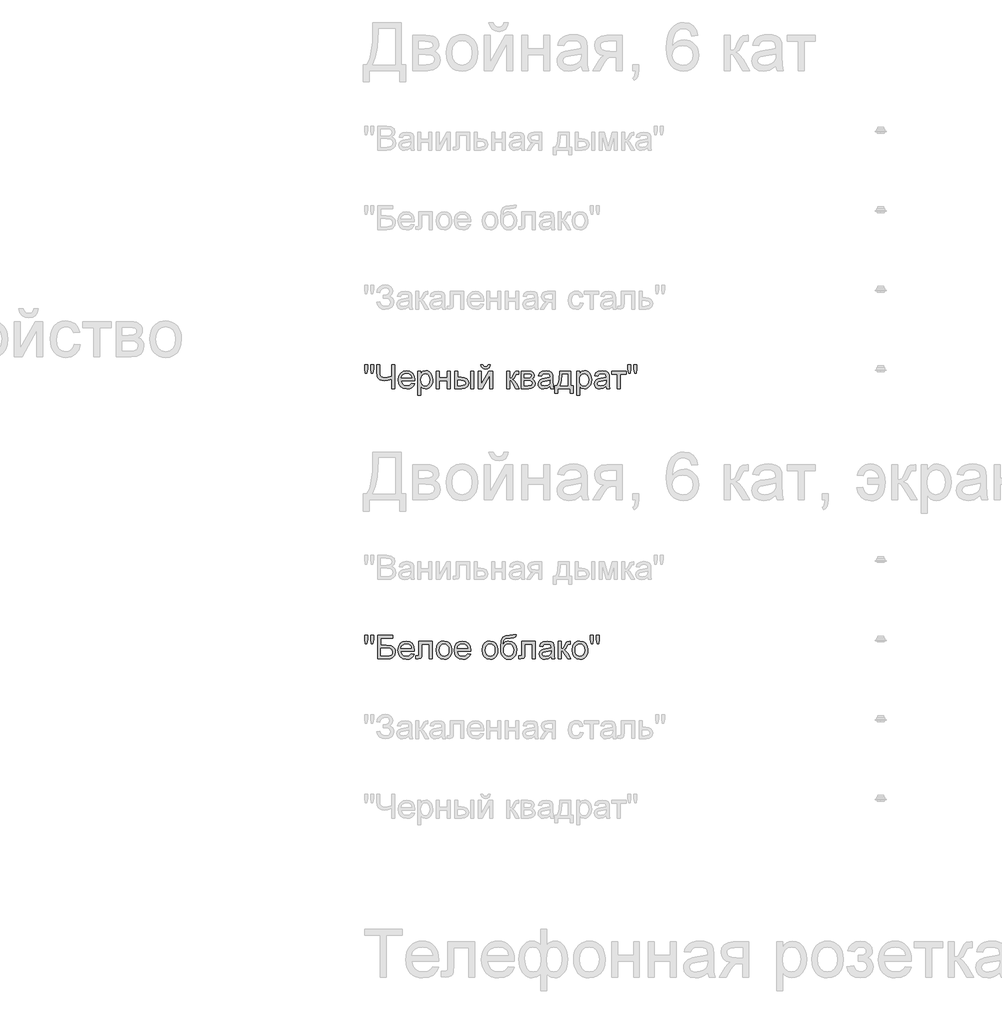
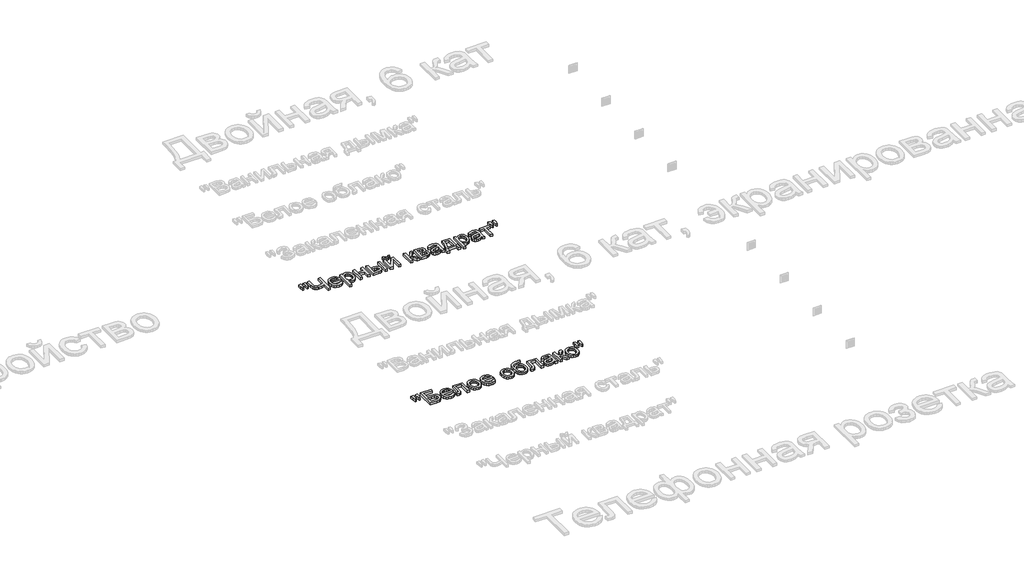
# One storey, part 147 of 168: 2 proxies.
"""IFC4 building model written with IfcOpenShell, lengths in millimetres."""

from ifc_helpers import new_model, si_unit, origin, origin_with_axes, place, context, project, spatial, polyline, outline, extrude, element, save

model = new_model("IFC4")

# Units and contexts
model_context = context("Model", 3, world=origin())
ifc_project = project(units=[si_unit("LENGTHUNIT", "METRE", prefix="MILLI")], contexts=[model_context])

# Site, building, storey
site = spatial("IfcSite", under=ifc_project)
building = spatial("IfcBuilding", under=site)
storey = spatial("IfcBuildingStorey", under=building, Name="Этаж 01", Elevation=0.0)

# Proxies
placement = place(None, origin())
element("IfcBuildingElementProxy", 1, Name="150", ObjectType="150", at=placement, inside=storey, context=model_context, shape_type="SweptSolid", body=[
    extrude(outline(polyline([(77280.1485789, -16051.873446), (77275.550054, -16022.7739802), (77275.550054, -15997.7212163), (77294.3856121, -15997.7212163), (77294.3856121, -16022.7739802), (77290.2653338, -16051.873446), (77280.1485789, -16051.873446)])), origin_with_axes(), (0.0, 0.0, 1.0), 20.0),
    extrude(outline(polyline([(77317.7093306, -16051.873446), (77313.2211703, -16022.7739802), (77313.2211703, -15997.7212163), (77332.0567284, -15997.7212163), (77332.0567284, -16022.7739802), (77327.6421445, -16051.873446), (77317.7093306, -16051.873446)])), origin_with_axes(), (0.0, 0.0, 1.0), 20.0),
    extrude(outline(polyline([(77463.9056355, -16148.4056816), (77445.0700773, -16148.4056816), (77445.0700773, -16088.0730344), (77420.0908899, -16096.2400147), (77398.4226404, -16098.9623414), (77383.7395502, -16097.0999388), (77370.886673, -16091.512731), (77360.926268, -16083.0606422), (77354.9205944, -16072.6035965), (77350.8922866, -16042.6028198), (77350.8922866, -15997.7212163), (77369.7278447, -15997.7212163), (77369.7278447, -16040.064434), (77371.990319, -16060.4313009), (77378.7777418, -16072.3828673), (77388.7381468, -16078.1908043), (77400.5195677, -16080.1267833), (77422.2521966, -16077.7907326), (77445.0700773, -16070.7825806), (77445.0700773, -15997.7212163), (77463.9056355, -15997.7212163), (77463.9056355, -16148.4056816)])), origin_with_axes(), (0.0, 0.0, 1.0), 20.0),
    extrude(outline(polyline([(77571.9893657, -16115.4434548), (77590.4570418, -16117.7978996), (77583.8029763, -16131.713036), (77573.1849822, -16142.1148995), (77558.8421829, -16148.5988196), (77541.0137017, -16150.7601263), (77518.9131908, -16147.0307226), (77501.9078456, -16135.8425114), (77491.0645238, -16117.9220597), (77487.4500832, -16093.9959345), (77491.101312, -16069.2650674), (77502.0549984, -16050.7698), (77518.8304174, -16039.2366995), (77539.9468439, -16035.3923327), (77560.4056814, -16039.2275025), (77576.7534375, -16050.7330118), (77587.4725992, -16069.191491), (77591.045653, -16093.8855699), (77590.9352884, -16098.9623414), (77506.2856413, -16098.9623414), (77509.5459955, -16113.0614189), (77517.1197661, -16123.4264941), (77528.0504599, -16129.8000497), (77541.3815837, -16131.9245682), (77559.8492598, -16127.9882308), (77571.9893657, -16115.4434548)]), holes=[polyline([(77506.2856413, -16080.1267833), (77572.2100949, -16080.1267833), (77569.6625121, -16070.1755753), (77564.668514, -16063.0570587), (77553.6872364, -16056.4351828), (77539.8732675, -16054.2278908), (77527.1767401, -16055.9891259), (77516.6783077, -16061.272831), (77509.3804486, -16069.5087892), (77506.2856413, -16080.1267833)])]), origin_with_axes(), (0.0, 0.0, 1.0), 20.0),
    extrude(outline(polyline([(77609.8812112, -16190.7856874), (77609.8812112, -16037.7467774), (77628.7167693, -16037.7467774), (77628.7167693, -16056.2144536), (77641.739792, -16040.5978629), (77659.3245513, -16035.3923327), (77672.0624654, -16037.2133485), (77683.2000928, -16042.6763962), (77692.268384, -16051.4503817), (77698.7982894, -16063.2042115), (77704.0590019, -16092.2301009), (77702.5736784, -16108.3387338), (77698.1177077, -16122.7459124), (77690.8336442, -16134.7204713), (77680.8640422, -16143.5312451), (77669.2527667, -16148.952906), (77657.043683, -16150.7601263), (77640.6545401, -16145.9224781), (77628.7167693, -16133.6904018), (77628.7167693, -16190.7856874), (77609.8812112, -16190.7856874)]), holes=[polyline([(77628.7167693, -16093.9591463), (77630.7539159, -16110.8449299), (77636.8653555, -16122.6539419), (77645.8830629, -16129.6069116), (77656.6390128, -16131.9245682), (77667.5697066, -16129.5241382), (77676.8173402, -16122.3228481), (77683.1219179, -16110.0815747), (77685.2234438, -16092.5611947), (77683.1725017, -16075.7673816), (77677.0196753, -16063.7928227), (77668.0157635, -16056.6191238), (77657.411565, -16054.2278908), (77646.7659797, -16056.7708751), (77637.4171785, -16064.399828), (77630.8918716, -16076.8756261), (77628.7167693, -16093.9591463)])]), origin_with_axes(), (0.0, 0.0, 1.0), 20.0),
    extrude(outline(polyline([(77725.2490049, -16037.7467774), (77744.084563, -16037.7467774), (77744.084563, -16080.1267833), (77793.5279032, -16080.1267833), (77793.5279032, -16037.7467774), (77812.3634613, -16037.7467774), (77812.3634613, -16148.4056816), (77793.5279032, -16148.4056816), (77793.5279032, -16098.9623414), (77744.084563, -16098.9623414), (77744.084563, -16148.4056816), (77725.2490049, -16148.4056816), (77725.2490049, -16037.7467774)])), origin_with_axes(), (0.0, 0.0, 1.0), 20.0),
    extrude(outline(polyline([(77944.2123684, -16037.7467774), (77963.0479266, -16037.7467774), (77963.0479266, -16148.4056816), (77944.2123684, -16148.4056816), (77944.2123684, -16037.7467774)])), origin_with_axes(), (0.0, 0.0, 1.0), 20.0),
    extrude(outline(polyline([(77840.6167986, -16037.7467774), (77859.4523567, -16037.7467774), (77859.4523567, -16077.7723385), (77882.739287, -16077.7723385), (77902.8670307, -16080.1313818), (77917.780047, -16087.2085117), (77927.0092866, -16098.433511), (77930.0856998, -16113.2361628), (77927.5059273, -16126.7144394), (77919.7666098, -16138.0865916), (77906.3619096, -16145.8259091), (77886.785989, -16148.4056816), (77840.6167986, -16148.4056816), (77840.6167986, -16037.7467774)]), holes=[polyline([(77859.4523567, -16129.5701234), (77878.8029497, -16129.5701234), (77903.7821371, -16125.615392), (77909.3831405, -16120.552416), (77911.2501416, -16113.272951), (77905.7135176, -16101.6846682), (77896.8337659, -16097.8770895), (77881.267759, -16096.6078966), (77859.4523567, -16096.6078966), (77859.4523567, -16129.5701234)])]), origin_with_axes(), (0.0, 0.0, 1.0), 20.0),
    extrude(outline(polyline([(77991.3012638, -16037.7467774), (78010.1368219, -16037.7467774), (78010.1368219, -16122.1389071), (78056.4163769, -16037.7467774), (78080.770165, -16037.7467774), (78080.770165, -16148.4056816), (78061.9346069, -16148.4056816), (78061.9346069, -16064.5285867), (78015.9493575, -16148.4056816), (77991.3012638, -16148.4056816), (77991.3012638, -16037.7467774)])), origin_with_axes(), (0.0, 0.0, 1.0), 20.0),
    extrude(outline(polyline([(78052.5168278, -15997.7212163), (78066.6434964, -15997.7212163), (78063.6038714, -16009.7831473), (78057.5016288, -16018.672096), (78048.6126801, -16024.1489392), (78037.2129368, -16025.9745536), (78024.8429047, -16024.1627347), (78015.2503817, -16018.7272783), (78008.6928851, -16009.8521251), (78005.4279324, -15997.7212163), (78019.554601, -15997.7212163), (78024.8521017, -16008.3346119), (78035.5206796, -16011.847885), (78047.219327, -16008.4449765), (78052.5168278, -15997.7212163)])), origin_with_axes(), (0.0, 0.0, 1.0), 20.0),
    extrude(outline(polyline([(78167.8846215, -16037.7467774), (78186.7201796, -16037.7467774), (78186.7201796, -16084.8356728), (78199.3385321, -16081.4511584), (78209.6760161, -16061.7326835), (78218.2660607, -16044.7181412), (78225.8444298, -16039.1815172), (78239.6216105, -16037.7467774), (78243.2268541, -16037.7467774), (78243.2268541, -16056.6927002), (78238.1500825, -16056.5823356), (78228.9530327, -16058.5688983), (78222.4783096, -16070.9665216), (78214.8815464, -16084.3758203), (78204.2313626, -16090.9425139), (78216.113951, -16098.2725627), (78227.7758103, -16113.7144094), (78247.9357436, -16148.4056816), (78226.5250115, -16148.4056816), (78206.7697484, -16114.4501734), (78196.8369345, -16100.0843815), (78186.7201796, -16096.6078966), (78186.7201796, -16148.4056816), (78167.8846215, -16148.4056816), (78167.8846215, -16037.7467774)])), origin_with_axes(), (0.0, 0.0, 1.0), 20.0),
    extrude(outline(polyline([(78259.7079675, -16037.7467774), (78301.2050565, -16037.7467774), (78323.9585579, -16040.2667691), (78336.7608514, -16049.5006072), (78342.1135344, -16065.5954445), (78338.8761728, -16078.6736494), (78329.1273, -16087.999458), (78341.7824406, -16098.2081833), (78346.8224239, -16115.9584896), (78343.6310476, -16130.3150845), (78336.0434815, -16140.4226423), (78324.0321343, -16146.4099217), (78307.569415, -16148.4056816), (78259.7079675, -16148.4056816), (78259.7079675, -16037.7467774)]), holes=[polyline([(78278.5435256, -16080.1267833), (78297.1583546, -16080.1267833), (78312.5174279, -16079.1702901), (78319.9854324, -16075.3443173), (78323.2779762, -16068.4281358), (78321.8340394, -16062.8087383), (78317.5022289, -16059.1942977), (78297.7469658, -16056.5823356), (78278.5435256, -16056.5823356), (78278.5435256, -16080.1267833)]), polyline([(78278.5435256, -16129.5701234), (78301.6465149, -16129.5701234), (78322.137542, -16126.167215), (78326.377382, -16121.5273033), (78327.9868658, -16114.4133852), (78324.7678983, -16105.345094), (78316.3801888, -16100.0659874), (78299.8071049, -16098.9623414), (78278.5435256, -16098.9623414), (78278.5435256, -16129.5701234)])]), origin_with_axes(), (0.0, 0.0, 1.0), 20.0),
    extrude(outline(polyline([(78441.0002147, -16134.279013), (78422.7348736, -16147.0445182), (78402.5565462, -16150.7601263), (78386.8157953, -16148.5252432), (78375.2045198, -16141.8205939), (78368.0446165, -16131.6394596), (78365.6579821, -16118.975122), (78369.2632256, -16104.0759012), (78378.736187, -16093.2601705), (78391.9247565, -16087.079753), (78408.2219289, -16084.2470616), (78440.8898501, -16077.7723385), (78441.0002147, -16073.5784838), (78439.7034307, -16065.1723802), (78435.8130786, -16059.6725443), (78427.1126694, -16055.5890542), (78414.9909576, -16054.2278908), (78395.9346703, -16057.8515285), (78386.847985, -16070.7090042), (78368.0124268, -16068.3545594), (78376.161013, -16049.9604597), (78392.56855, -16039.1815172), (78417.4189788, -16035.3923327), (78440.2460566, -16038.7400588), (78453.1403205, -16047.1461624), (78458.9160679, -16059.9300617), (78459.8357728, -16076.4111751), (78459.8357728, -16099.8452582), (78460.792266, -16132.5683617), (78464.5446624, -16148.4056816), (78445.7091042, -16148.4056816), (78441.0002147, -16134.279013)]), holes=[polyline([(78441.0002147, -16096.6078966), (78410.6131619, -16102.383644), (78394.40796, -16105.4370645), (78387.0687142, -16110.4034715), (78384.4935402, -16117.6507468), (78390.1037407, -16127.841078), (78406.5664599, -16131.9245682), (78425.6227473, -16127.4180137), (78437.9100059, -16116.5103126), (78440.8898501, -16101.9421856), (78441.0002147, -16096.6078966)])]), origin_with_axes(), (0.0, 0.0, 1.0), 20.0),
    extrude(outline(polyline([(78502.2157787, -16037.7467774), (78572.8491218, -16037.7467774), (78572.8491218, -16129.5701234), (78586.9757904, -16129.5701234), (78586.9757904, -16179.0134636), (78568.1402322, -16179.0134636), (78568.1402322, -16148.4056816), (78490.4435548, -16148.4056816), (78490.4435548, -16179.0134636), (78471.6079967, -16179.0134636), (78471.6079967, -16129.5701234), (78483.3802205, -16129.5701234), (78491.9380754, -16114.105284), (78497.9299534, -16093.6464466), (78502.2157787, -16037.7467774)]), holes=[polyline([(78518.6968921, -16056.5823356), (78514.2823081, -16099.4957703), (78504.5702235, -16129.5701234), (78554.0135636, -16129.5701234), (78554.0135636, -16056.5823356), (78518.6968921, -16056.5823356)])]), origin_with_axes(), (0.0, 0.0, 1.0), 20.0),
    extrude(outline(polyline([(78608.1657933, -16190.7856874), (78608.1657933, -16037.7467774), (78627.0013514, -16037.7467774), (78627.0013514, -16056.2144536), (78640.0243741, -16040.5978629), (78657.6091334, -16035.3923327), (78670.3470475, -16037.2133485), (78681.4846749, -16042.6763962), (78690.5529661, -16051.4503817), (78697.0828715, -16063.2042115), (78702.3435841, -16092.2301009), (78700.8582605, -16108.3387338), (78696.4022898, -16122.7459124), (78689.1182263, -16134.7204713), (78679.1486243, -16143.5312451), (78667.5373488, -16148.952906), (78655.3282651, -16150.7601263), (78638.9391222, -16145.9224781), (78627.0013514, -16133.6904018), (78627.0013514, -16190.7856874), (78608.1657933, -16190.7856874)]), holes=[polyline([(78627.0013514, -16093.9591463), (78629.038498, -16110.8449299), (78635.1499376, -16122.6539419), (78644.167645, -16129.6069116), (78654.9235949, -16131.9245682), (78665.8542887, -16129.5241382), (78675.1019223, -16122.3228481), (78681.4065, -16110.0815747), (78683.5080259, -16092.5611947), (78681.4570838, -16075.7673816), (78675.3042574, -16063.7928227), (78666.3003456, -16056.6191238), (78655.6961471, -16054.2278908), (78645.0505618, -16056.7708751), (78635.7017606, -16064.399828), (78629.1764537, -16076.8756261), (78627.0013514, -16093.9591463)])]), origin_with_axes(), (0.0, 0.0, 1.0), 20.0),
    extrude(outline(polyline([(78794.1669301, -16134.279013), (78775.901589, -16147.0445182), (78755.7232616, -16150.7601263), (78739.9825107, -16148.5252432), (78728.3712352, -16141.8205939), (78721.2113319, -16131.6394596), (78718.8246974, -16118.975122), (78722.429941, -16104.0759012), (78731.9029024, -16093.2601705), (78745.0914719, -16087.079753), (78761.3886443, -16084.2470616), (78794.0565655, -16077.7723385), (78794.1669301, -16073.5784838), (78792.870146, -16065.1723802), (78788.9797939, -16059.6725443), (78780.2793847, -16055.5890542), (78768.157673, -16054.2278908), (78749.1013856, -16057.8515285), (78740.0147004, -16070.7090042), (78721.1791422, -16068.3545594), (78729.3277284, -16049.9604597), (78745.7352654, -16039.1815172), (78770.5856942, -16035.3923327), (78793.412772, -16038.7400588), (78806.3070359, -16047.1461624), (78812.0827832, -16059.9300617), (78813.0024882, -16076.4111751), (78813.0024882, -16099.8452582), (78813.9589814, -16132.5683617), (78817.7113777, -16148.4056816), (78798.8758196, -16148.4056816), (78794.1669301, -16134.279013)]), holes=[polyline([(78794.1669301, -16096.6078966), (78763.7798773, -16102.383644), (78747.5746754, -16105.4370645), (78740.2354296, -16110.4034715), (78737.6602556, -16117.6507468), (78743.270456, -16127.841078), (78759.7331753, -16131.9245682), (78778.7894627, -16127.4180137), (78791.0767213, -16116.5103126), (78794.0565655, -16101.9421856), (78794.1669301, -16096.6078966)])]), origin_with_axes(), (0.0, 0.0, 1.0), 20.0),
    extrude(outline(polyline([(78829.4836016, -16037.7467774), (78918.9525028, -16037.7467774), (78918.9525028, -16056.5823356), (78883.6358313, -16056.5823356), (78883.6358313, -16148.4056816), (78864.8002731, -16148.4056816), (78864.8002731, -16056.5823356), (78829.4836016, -16056.5823356), (78829.4836016, -16037.7467774)])), origin_with_axes(), (0.0, 0.0, 1.0), 20.0),
    extrude(outline(polyline([(78935.3232516, -16051.873446), (78930.7247267, -16022.7739802), (78930.7247267, -15997.7212163), (78949.5602848, -15997.7212163), (78949.5602848, -16022.7739802), (78945.4400065, -16051.873446), (78935.3232516, -16051.873446)])), origin_with_axes(), (0.0, 0.0, 1.0), 20.0),
    extrude(outline(polyline([(78972.8840033, -16051.873446), (78968.395843, -16022.7739802), (78968.395843, -15997.7212163), (78987.2314011, -15997.7212163), (78987.2314011, -16022.7739802), (78982.8168172, -16051.873446), (78972.8840033, -16051.873446)])), origin_with_axes(), (0.0, 0.0, 1.0), 20.0),
])
element("IfcBuildingElementProxy", 2, Name="150", ObjectType="150", at=placement, inside=storey, context=model_context, shape_type="SweptSolid", body=[
    extrude(outline(polyline([(77280.1485789, -17751.873446), (77275.550054, -17722.7739802), (77275.550054, -17697.7212163), (77294.3856121, -17697.7212163), (77294.3856121, -17722.7739802), (77290.2653338, -17751.873446), (77280.1485789, -17751.873446)])), origin_with_axes(), (0.0, 0.0, 1.0), 20.0),
    extrude(outline(polyline([(77317.7093306, -17751.873446), (77313.2211703, -17722.7739802), (77313.2211703, -17697.7212163), (77332.0567284, -17697.7212163), (77332.0567284, -17722.7739802), (77327.6421445, -17751.873446), (77317.7093306, -17751.873446)])), origin_with_axes(), (0.0, 0.0, 1.0), 20.0),
    extrude(outline(polyline([(77357.9556209, -17697.7212163), (77452.1334117, -17697.7212163), (77452.1334117, -17716.5567745), (77376.791179, -17716.5567745), (77376.791179, -17761.2912251), (77412.0710624, -17761.2912251), (77443.157091, -17765.1171979), (77453.5589544, -17770.6446248), (77461.6615553, -17779.5749603), (77466.8762826, -17791.0712726), (77468.614525, -17804.2966303), (77463.6665122, -17825.7625448), (77448.8960501, -17842.0781113), (77435.6247071, -17846.823789), (77415.4555767, -17848.4056816), (77357.9556209, -17848.4056816), (77357.9556209, -17697.7212163)]), holes=[polyline([(77376.791179, -17829.5701234), (77417.1478339, -17829.5701234), (77431.4124583, -17828.015822), (77441.6119866, -17823.3529177), (77447.7372218, -17815.5814105), (77449.7789669, -17804.7013005), (77445.1068655, -17789.9492325), (77432.102237, -17782.0765578), (77403.7201411, -17780.1267833), (77376.791179, -17780.1267833), (77376.791179, -17829.5701234)])]), origin_with_axes(), (0.0, 0.0, 1.0), 20.0),
    extrude(outline(polyline([(77569.6349209, -17815.4434548), (77588.1025971, -17817.7978996), (77581.4485315, -17831.713036), (77570.8305374, -17842.1148995), (77556.4877381, -17848.5988196), (77538.6592569, -17850.7601263), (77516.5587461, -17847.0307226), (77499.5534008, -17835.8425114), (77488.710079, -17817.9220597), (77485.0956384, -17793.9959345), (77488.7468672, -17769.2650674), (77499.7005536, -17750.7698), (77516.4759726, -17739.2366995), (77537.5923991, -17735.3923327), (77558.0512366, -17739.2275025), (77574.3989927, -17750.7330118), (77585.1181544, -17769.191491), (77588.6912083, -17793.8855699), (77588.5808437, -17798.9623414), (77503.9311966, -17798.9623414), (77507.1915508, -17813.0614189), (77514.7653213, -17823.4264941), (77525.6960151, -17829.8000497), (77539.0271389, -17831.9245682), (77557.4948151, -17827.9882308), (77569.6349209, -17815.4434548)]), holes=[polyline([(77503.9311966, -17780.1267833), (77569.8556501, -17780.1267833), (77567.3080673, -17770.1755753), (77562.3140692, -17763.0570587), (77551.3327917, -17756.4351828), (77537.5188227, -17754.2278908), (77524.8222954, -17755.9891259), (77514.3238629, -17761.272831), (77507.0260039, -17769.5087892), (77503.9311966, -17780.1267833)])]), origin_with_axes(), (0.0, 0.0, 1.0), 20.0),
    extrude(outline(polyline([(77616.9445455, -17737.7467774), (77701.7045572, -17737.7467774), (77701.7045572, -17848.295317), (77682.868999, -17848.295317), (77682.868999, -17756.5823356), (77635.7801036, -17756.5823356), (77635.7801036, -17809.3734019), (77634.5109108, -17833.72719), (77627.539547, -17844.0094917), (77611.0584336, -17848.4056816), (77595.7545426, -17847.4491884), (77595.7545426, -17829.5701234), (77604.1790403, -17829.5701234), (77612.6955084, -17828.4112951), (77616.0984169, -17824.7324752), (77616.9445455, -17808.3065441), (77616.9445455, -17737.7467774)])), origin_with_axes(), (0.0, 0.0, 1.0), 20.0),
    extrude(outline(polyline([(77725.2490049, -17793.0762295), (77729.323298, -17766.3955878), (77741.5461773, -17747.6428031), (77756.6477332, -17738.4549503), (77774.7291332, -17735.3923327), (77794.516586, -17739.1217364), (77810.3217163, -17750.3099476), (77820.6821929, -17768.0740494), (77824.1356852, -17791.5311251), (77822.6089749, -17810.5598213), (77818.0288441, -17825.0451749), (77810.5286499, -17835.8930952), (77800.2417496, -17844.0094917), (77788.0234688, -17849.0724677), (77774.7291332, -17850.7601263), (77754.7025571, -17847.0445182), (77738.915821, -17835.8976937), (77728.6657089, -17817.7611114), (77725.2490049, -17793.0762295)]), holes=[polyline([(77744.084563, -17793.0394413), (77746.2642638, -17810.0861732), (77752.8033663, -17822.2308776), (77762.6442097, -17829.5011455), (77774.7291332, -17831.9245682), (77786.7588745, -17829.48735), (77796.5813237, -17822.1756953), (77803.1204262, -17809.8700426), (77805.300127, -17792.4508301), (77803.1066306, -17775.9007388), (77796.5261414, -17763.9215814), (77786.6898966, -17756.6513134), (77774.7291332, -17754.2278908), (77762.6442097, -17756.6421164), (77752.8033663, -17763.8847932), (77746.2642638, -17776.0019064), (77744.084563, -17793.0394413)])]), origin_with_axes(), (0.0, 0.0, 1.0), 20.0),
    extrude(outline(polyline([(77922.8016363, -17815.4434548), (77941.2693124, -17817.7978996), (77934.6152469, -17831.713036), (77923.9972528, -17842.1148995), (77909.6544535, -17848.5988196), (77891.8259723, -17850.7601263), (77869.7254614, -17847.0307226), (77852.7201162, -17835.8425114), (77841.8767944, -17817.9220597), (77838.2623538, -17793.9959345), (77841.9135826, -17769.2650674), (77852.867269, -17750.7698), (77869.642688, -17739.2366995), (77890.7591145, -17735.3923327), (77911.217952, -17739.2275025), (77927.5657081, -17750.7330118), (77938.2848698, -17769.191491), (77941.8579236, -17793.8855699), (77941.747559, -17798.9623414), (77857.0979119, -17798.9623414), (77860.3582661, -17813.0614189), (77867.9320367, -17823.4264941), (77878.8627305, -17829.8000497), (77892.1938543, -17831.9245682), (77910.6615304, -17827.9882308), (77922.8016363, -17815.4434548)]), holes=[polyline([(77857.0979119, -17780.1267833), (77923.0223655, -17780.1267833), (77920.4747827, -17770.1755753), (77915.4807846, -17763.0570587), (77904.499507, -17756.4351828), (77890.6855381, -17754.2278908), (77877.9890107, -17755.9891259), (77867.4905783, -17761.272831), (77860.1927192, -17769.5087892), (77857.0979119, -17780.1267833)])]), origin_with_axes(), (0.0, 0.0, 1.0), 20.0),
    extrude(outline(polyline([(78014.8457115, -17793.0762295), (78018.9200046, -17766.3955878), (78031.1428839, -17747.6428031), (78046.2444398, -17738.4549503), (78064.3258398, -17735.3923327), (78084.1132926, -17739.1217364), (78099.9184229, -17750.3099476), (78110.2788995, -17768.0740494), (78113.7323918, -17791.5311251), (78112.2056815, -17810.5598213), (78107.6255507, -17825.0451749), (78100.1253565, -17835.8930952), (78089.8384562, -17844.0094917), (78077.6201754, -17849.0724677), (78064.3258398, -17850.7601263), (78044.2992637, -17847.0445182), (78028.5125276, -17835.8976937), (78018.2624155, -17817.7611114), (78014.8457115, -17793.0762295)]), holes=[polyline([(78033.6812696, -17793.0394413), (78035.8609704, -17810.0861732), (78042.4000729, -17822.2308776), (78052.2409163, -17829.5011455), (78064.3258398, -17831.9245682), (78076.3555811, -17829.48735), (78086.1780303, -17822.1756953), (78092.7171328, -17809.8700426), (78094.8968336, -17792.4508301), (78092.7033372, -17775.9007388), (78086.122848, -17763.9215814), (78076.2866032, -17756.6513134), (78064.3258398, -17754.2278908), (78052.2409163, -17756.6421164), (78042.4000729, -17763.8847932), (78035.8609704, -17776.0019064), (78033.6812696, -17793.0394413)])]), origin_with_axes(), (0.0, 0.0, 1.0), 20.0),
    extrude(outline(polyline([(78212.6190721, -17695.3667716), (78229.1001855, -17695.3667716), (78224.2441431, -17710.0636573), (78214.6424231, -17715.3795521), (78191.576222, -17716.5567745), (78160.5085875, -17720.897782), (78153.3808738, -17726.5447707), (78148.5892108, -17734.8037215), (78144.560903, -17759.4150269), (78160.8764695, -17741.3888092), (78170.7954878, -17736.8914518), (78181.9009255, -17735.3923327), (78201.4998388, -17739.2045098), (78217.401538, -17750.6410414), (78227.9413572, -17768.5798871), (78231.4546302, -17791.8990071), (78229.7117893, -17809.8792396), (78224.4832664, -17824.3094109), (78207.9469707, -17843.8623389), (78196.6529935, -17849.0356795), (78181.9009255, -17850.7601263), (78164.9001788, -17848.5390388), (78152.1576662, -17841.8757762), (78142.7812738, -17831.7498242), (78135.8788879, -17819.1406689), (78131.6298508, -17800.1533594), (78130.2135052, -17770.8929452), (78133.786559, -17734.7531377), (78144.5057207, -17712.7124076), (78162.6377045, -17701.4690142), (78188.449225, -17697.7212163), (78209.4184987, -17697.2981521), (78212.6190721, -17695.3667716)]), holes=[polyline([(78212.6190721, -17791.3103959), (78210.577327, -17776.48935), (78204.4520918, -17764.6205572), (78194.6112484, -17756.8260574), (78181.4226789, -17754.2278908), (78167.6730893, -17756.9732102), (78157.473561, -17765.2091684), (78151.1551877, -17778.0344544), (78149.0490633, -17794.5477575), (78151.3759169, -17810.5552228), (78158.3564778, -17822.304454), (78168.7491442, -17829.5195396), (78181.3123143, -17831.9245682), (78193.9398638, -17829.1424606), (78203.937057, -17820.7961378), (78210.4485683, -17807.8604872), (78212.6190721, -17791.3103959)])]), origin_with_axes(), (0.0, 0.0, 1.0), 20.0),
    extrude(outline(polyline([(78264.416857, -17737.7467774), (78349.1768687, -17737.7467774), (78349.1768687, -17848.295317), (78330.3413105, -17848.295317), (78330.3413105, -17756.5823356), (78283.2524152, -17756.5823356), (78283.2524152, -17809.3734019), (78281.9832223, -17833.72719), (78275.0118585, -17844.0094917), (78258.5307451, -17848.4056816), (78243.2268541, -17847.4491884), (78243.2268541, -17829.5701234), (78251.6513518, -17829.5701234), (78260.16782, -17828.4112951), (78263.5707284, -17824.7324752), (78264.416857, -17808.3065441), (78264.416857, -17737.7467774)])), origin_with_axes(), (0.0, 0.0, 1.0), 20.0),
    extrude(outline(polyline([(78448.063549, -17834.279013), (78429.7982079, -17847.0445182), (78409.6198805, -17850.7601263), (78393.8791296, -17848.5252432), (78382.2678542, -17841.8205939), (78375.1079508, -17831.6394596), (78372.7213164, -17818.975122), (78376.3265599, -17804.0759012), (78385.7995213, -17793.2601705), (78398.9880908, -17787.079753), (78415.2852632, -17784.2470616), (78447.9531844, -17777.7723385), (78448.063549, -17773.5784838), (78446.766765, -17765.1723802), (78442.8764129, -17759.6725443), (78434.1760037, -17755.5890542), (78422.0542919, -17754.2278908), (78402.9980046, -17757.8515285), (78393.9113193, -17770.7090042), (78375.0757612, -17768.3545594), (78383.2243473, -17749.9604597), (78399.6318843, -17739.1815172), (78424.4823131, -17735.3923327), (78447.3093909, -17738.7400588), (78460.2036548, -17747.1461624), (78465.9794022, -17759.9300617), (78466.8991071, -17776.4111751), (78466.8991071, -17799.8452582), (78467.8556003, -17832.5683617), (78471.6079967, -17848.4056816), (78452.7724385, -17848.4056816), (78448.063549, -17834.279013)]), holes=[polyline([(78448.063549, -17796.6078966), (78417.6764962, -17802.383644), (78401.4712943, -17805.4370645), (78394.1320485, -17810.4034715), (78391.5568745, -17817.6507468), (78397.167075, -17827.841078), (78413.6297942, -17831.9245682), (78432.6860816, -17827.4180137), (78444.9733402, -17816.5103126), (78447.9531844, -17801.9421856), (78448.063549, -17796.6078966)])]), origin_with_axes(), (0.0, 0.0, 1.0), 20.0),
    extrude(outline(polyline([(78492.7979996, -17737.7467774), (78511.6335578, -17737.7467774), (78511.6335578, -17784.8356728), (78524.2519102, -17781.4511584), (78534.5893943, -17761.7326835), (78543.1794388, -17744.7181412), (78550.7578079, -17739.1815172), (78564.5349887, -17737.7467774), (78568.1402322, -17737.7467774), (78568.1402322, -17756.6927002), (78563.0634607, -17756.5823356), (78553.8664108, -17758.5688983), (78547.3916877, -17770.9665216), (78539.7949245, -17784.3758203), (78529.1447407, -17790.9425139), (78541.0273292, -17798.2725627), (78552.6891884, -17813.7144094), (78572.8491218, -17848.4056816), (78551.4383896, -17848.4056816), (78531.6831265, -17814.4501734), (78521.7503126, -17800.0843815), (78511.6335578, -17796.6078966), (78511.6335578, -17848.4056816), (78492.7979996, -17848.4056816), (78492.7979996, -17737.7467774)])), origin_with_axes(), (0.0, 0.0, 1.0), 20.0),
    extrude(outline(polyline([(78579.9124561, -17793.0762295), (78583.9867492, -17766.3955878), (78596.2096285, -17747.6428031), (78611.3111844, -17738.4549503), (78629.3925844, -17735.3923327), (78649.1800372, -17739.1217364), (78664.9851674, -17750.3099476), (78675.3456441, -17768.0740494), (78678.7991364, -17791.5311251), (78677.2724261, -17810.5598213), (78672.6922952, -17825.0451749), (78665.1921011, -17835.8930952), (78654.9052008, -17844.0094917), (78642.68692, -17849.0724677), (78629.3925844, -17850.7601263), (78609.3660083, -17847.0445182), (78593.5792722, -17835.8976937), (78583.3291601, -17817.7611114), (78579.9124561, -17793.0762295)]), holes=[polyline([(78598.7480142, -17793.0394413), (78600.927715, -17810.0861732), (78607.4668175, -17822.2308776), (78617.3076609, -17829.5011455), (78629.3925844, -17831.9245682), (78641.4223257, -17829.48735), (78651.2447749, -17822.1756953), (78657.7838774, -17809.8700426), (78659.9635782, -17792.4508301), (78657.7700818, -17775.9007388), (78651.1895926, -17763.9215814), (78641.3533478, -17756.6513134), (78629.3925844, -17754.2278908), (78617.3076609, -17756.6421164), (78607.4668175, -17763.8847932), (78600.927715, -17776.0019064), (78598.7480142, -17793.0394413)])]), origin_with_axes(), (0.0, 0.0, 1.0), 20.0),
    extrude(outline(polyline([(78699.8787747, -17751.873446), (78695.2802498, -17722.7739802), (78695.2802498, -17697.7212163), (78714.1158079, -17697.7212163), (78714.1158079, -17722.7739802), (78709.9955296, -17751.873446), (78699.8787747, -17751.873446)])), origin_with_axes(), (0.0, 0.0, 1.0), 20.0),
    extrude(outline(polyline([(78737.4395264, -17751.873446), (78732.9513661, -17722.7739802), (78732.9513661, -17697.7212163), (78751.7869242, -17697.7212163), (78751.7869242, -17722.7739802), (78747.3723403, -17751.873446), (78737.4395264, -17751.873446)])), origin_with_axes(), (0.0, 0.0, 1.0), 20.0),
])

save(model, "model.ifc")
